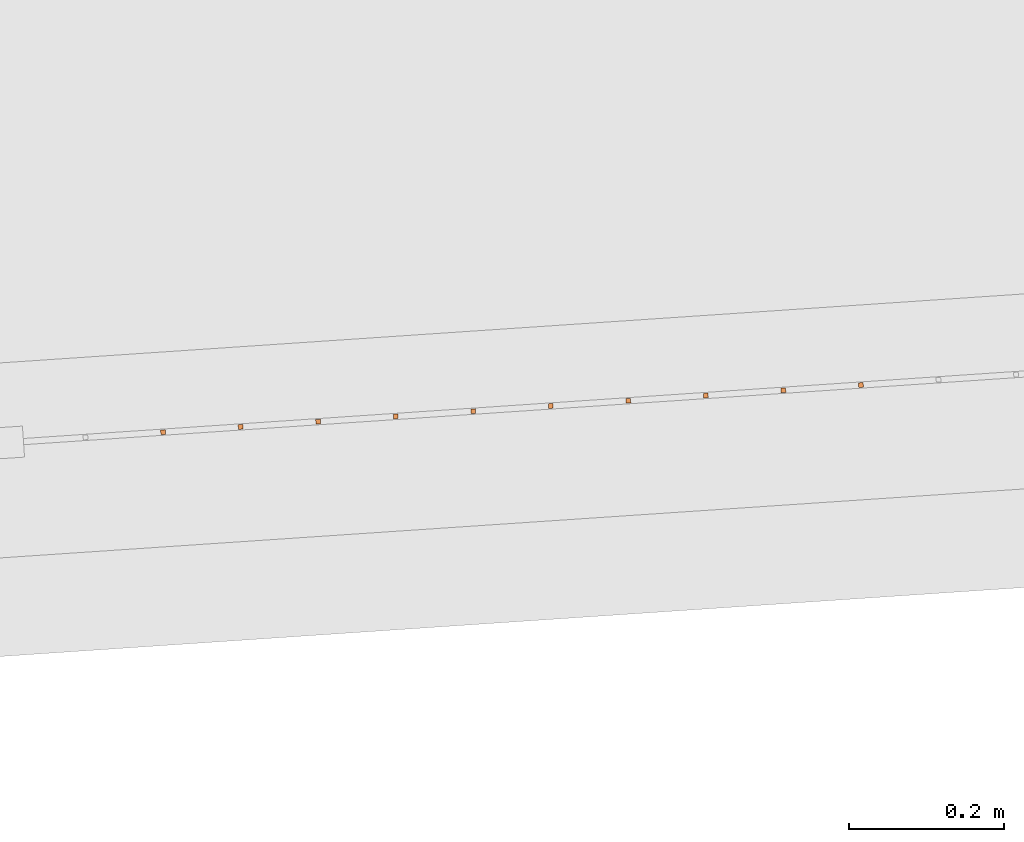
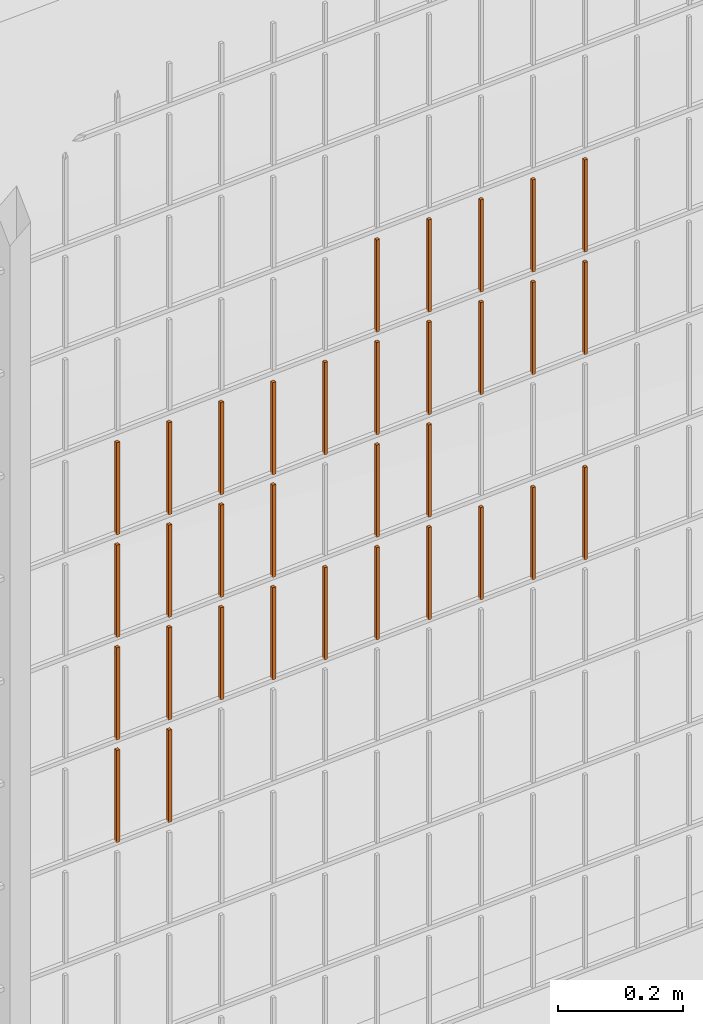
# One storey, part 381 of 1809: 33 proxies, 1 element without a shape of its own.
"""IFC2X3 building model written with IfcOpenShell, lengths in millimetres."""

from ifc_helpers import new_model, entity, si_unit, converted_unit, derived_unit, money_unit, direction, frame, origin_with_axes, place, context, subcontext, project, spatial, faceted_brep, source, transform, mapped, material, type_object, element, aggregate, save


model = new_model("IFC2X3")

# Units and contexts
model_context = context("Model", 3, precision=0.01, world=origin_with_axes(), true_north=direction((0.0, 1.0)))
body_context = subcontext(model_context, "Body", "Model", "MODEL_VIEW")
ifc_project = project(units=[si_unit("LENGTHUNIT", "METRE", prefix="MILLI"), si_unit("AREAUNIT", "SQUARE_METRE"), si_unit("VOLUMEUNIT", "CUBIC_METRE"), converted_unit("PLANEANGLEUNIT", "DEGREE", entity("IfcPlaneAngleMeasure", 0.0174532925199), si_unit("PLANEANGLEUNIT", "RADIAN"), dimensions=[0, 0, 0, 0, 0, 0, 0]), si_unit("SOLIDANGLEUNIT", "STERADIAN"), money_unit("EUR"), converted_unit("TIMEUNIT", "Year", entity("IfcTimeMeasure", 31556926.0), si_unit("TIMEUNIT", "SECOND"), dimensions=[0, 0, 1, 0, 0, 0, 0]), si_unit("MASSUNIT", "GRAM", prefix="KILO"), si_unit("THERMODYNAMICTEMPERATUREUNIT", "DEGREE_CELSIUS"), si_unit("LUMINOUSINTENSITYUNIT", "LUMEN"), si_unit("ENERGYUNIT", "JOULE", prefix="MEGA"), derived_unit("THERMALCONDUCTANCEUNIT", [(si_unit("POWERUNIT", "WATT"), 1), (si_unit("LENGTHUNIT", "METRE"), -1), (si_unit("THERMODYNAMICTEMPERATUREUNIT", "KELVIN"), -1)]), derived_unit("SPECIFICHEATCAPACITYUNIT", [(si_unit("ENERGYUNIT", "JOULE"), 1), (si_unit("MASSUNIT", "GRAM", prefix="KILO"), -1), (si_unit("THERMODYNAMICTEMPERATUREUNIT", "KELVIN"), -1)]), derived_unit("MASSDENSITYUNIT", [(si_unit("MASSUNIT", "GRAM", prefix="KILO"), 1), (si_unit("VOLUMEUNIT", "CUBIC_METRE"), -1)])], contexts=[model_context])

# Site, building, storey
site_placement = place(None, origin_with_axes())
site = spatial("IfcSite", under=ifc_project, at=site_placement, Name="Politse- ja Piirivalveameti ning Päästeameti ühishoone", CompositionType="ELEMENT")
building_placement = place(site_placement, origin_with_axes())
building = spatial("IfcBuilding", under=site, at=building_placement, Name="Politse- ja Piirivalveameti ning Päästeameti ühishoone", CompositionType="ELEMENT")
storey_placement = place(building_placement, origin_with_axes())
storey = spatial("IfcBuildingStorey", under=building, at=storey_placement, Name="Esimene korrus", CompositionType="ELEMENT", Elevation=0.0)

# Proxies
building_element_proxy_type_1 = type_object("IfcBuildingElementProxyType", Name="Railing Type", PredefinedType="NOTDEFINED")
proxy_1_placement = place(storey_placement, frame((89252.001212, -29183.4766571, 203.661247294), z_axis=(0.0, 0.0, 1.0), x_axis=(1.0, 0.0, 0.0)))
proxy_1 = element("IfcBuildingElementProxy", 1, at=proxy_1_placement, inside=storey, type_object=building_element_proxy_type_1, Name="PIIRDEAED")
ifc_material = material(Name="ET-03_Raud")
building_element_proxy_type_2 = type_object("IfcBuildingElementProxyType", Name="IfcBuildingElementProxy", PredefinedType="NOTDEFINED")
shared_shape_1 = source(origin_with_axes(), body_context, "Body", "Brep", [
    faceted_brep([(3.0, 3.0, -0.000752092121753), (-3.0, 3.0, -0.000752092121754), (-3.0, 3.0, 179.99926046), (3.0, 3.0, 179.99926046), (3.0, -3.0, 0.000752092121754), (-3.0, -3.0, 0.000752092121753), (-3.0, -3.0, 180.000764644), (3.0, -3.0, 180.000764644)], [[[0, 1, 2, 3]], [[0, 4, 5, 1]], [[1, 5, 6, 2]], [[3, 2, 6, 7]], [[4, 0, 3, 7]], [[5, 4, 7, 6]]]),
])
proxy_2_placement = place(proxy_1_placement, frame((-16588.8876971, -18418.2915213, 1423.0661185), z_axis=(0.0, 0.0, 1.0), x_axis=(1.0, 0.0, 0.0)))
proxy_2 = element("IfcBuildingElementProxy", 2, at=proxy_2_placement, type_object=building_element_proxy_type_2, material=ifc_material, Name="BALUSTER - 001", context=body_context, shape_type="MappedRepresentation", body=[
    mapped(shared_shape_1, transform((0.0, 0.0, 0.0), x_axis=(-0.0673926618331, 0.997726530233, 0.0), y_axis=(-0.997726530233, -0.0673926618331, 0.0), z_axis=(0.0, 0.0, 1.0))),
])
shared_shape_2 = source(origin_with_axes(), body_context, "Body", "Brep", [
    faceted_brep([(3.0, 3.0, -0.000752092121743), (-3.0, 3.0, -0.000752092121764), (-3.0, 3.0, 179.99926046), (3.0, 3.0, 179.99926046), (3.0, -3.0, 0.000752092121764), (-3.0, -3.0, 0.000752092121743), (-3.0, -3.0, 180.000764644), (3.0, -3.0, 180.000764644)], [[[0, 1, 2, 3]], [[0, 4, 5, 1]], [[1, 5, 6, 2]], [[3, 2, 6, 7]], [[4, 0, 3, 7]], [[5, 4, 7, 6]]]),
])
proxy_3_placement = place(proxy_1_placement, frame((-16289.569738, -18398.0737228, 1423.14132771), z_axis=(0.0, 0.0, 1.0), x_axis=(1.0, 0.0, 0.0)))
proxy_3 = element("IfcBuildingElementProxy", 3, at=proxy_3_placement, type_object=building_element_proxy_type_2, material=ifc_material, Name="BALUSTER - 001", context=body_context, shape_type="MappedRepresentation", body=[
    mapped(shared_shape_2, transform((0.0, 0.0, 0.0), x_axis=(-0.0673926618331, 0.997726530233, 0.0), y_axis=(-0.997726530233, -0.0673926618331, 0.0), z_axis=(0.0, 0.0, 1.0))),
])
shared_shape_3 = source(origin_with_axes(), body_context, "Body", "Brep", [
    faceted_brep([(3.0, 3.0, -0.000752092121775), (-3.0, 3.0, -0.000752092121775), (-3.0, 3.0, 179.99926046), (3.0, 3.0, 179.99926046), (3.0, -3.0, 0.000752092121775), (-3.0, -3.0, 0.000752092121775), (-3.0, -3.0, 180.000764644), (3.0, -3.0, 180.000764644)], [[[0, 1, 2, 3]], [[0, 4, 5, 1]], [[1, 5, 6, 2]], [[3, 2, 6, 7]], [[4, 0, 3, 7]], [[5, 4, 7, 6]]]),
])
proxy_4_placement = place(proxy_1_placement, frame((-17087.7509622, -18451.9878523, 622.940769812), z_axis=(0.0, 0.0, 1.0), x_axis=(1.0, 0.0, 0.0)))
proxy_4 = element("IfcBuildingElementProxy", 4, at=proxy_4_placement, type_object=building_element_proxy_type_2, material=ifc_material, Name="BALUSTER - 001", context=body_context, shape_type="MappedRepresentation", body=[
    mapped(shared_shape_3, transform((0.0, 0.0, 0.0), x_axis=(-0.0673926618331, 0.997726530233, 0.0), y_axis=(-0.997726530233, -0.0673926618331, 0.0), z_axis=(0.0, 0.0, 1.0))),
])
shared_shape_4 = source(origin_with_axes(), body_context, "Body", "Brep", [
    faceted_brep([(3.0, 3.0, -0.000752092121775), (-3.0, 3.0, -0.000752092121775), (-3.0, 3.0, 179.99926046), (3.0, 3.0, 179.99926046), (3.0, -3.0, 0.000752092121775), (-3.0, -3.0, 0.000752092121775), (-3.0, -3.0, 180.000764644), (3.0, -3.0, 180.000764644)], [[[0, 1, 2, 3]], [[0, 4, 5, 1]], [[1, 5, 6, 2]], [[3, 2, 6, 7]], [[4, 0, 3, 7]], [[5, 4, 7, 6]]]),
])
proxy_5_placement = place(proxy_1_placement, frame((-16389.342391, -18404.812989, 1223.11625797), z_axis=(0.0, 0.0, 1.0), x_axis=(1.0, 0.0, 0.0)))
proxy_5 = element("IfcBuildingElementProxy", 5, at=proxy_5_placement, type_object=building_element_proxy_type_2, material=ifc_material, Name="BALUSTER - 001", context=body_context, shape_type="MappedRepresentation", body=[
    mapped(shared_shape_4, transform((0.0, 0.0, 0.0), x_axis=(-0.0673926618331, 0.997726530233, 0.0), y_axis=(-0.997726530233, -0.0673926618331, 0.0), z_axis=(0.0, 0.0, 1.0))),
])
shared_shape_5 = source(origin_with_axes(), body_context, "Body", "Brep", [
    faceted_brep([(3.0, 3.0, -0.000752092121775), (-3.0, 3.0, -0.000752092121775), (-3.0, 3.0, 179.99926046), (3.0, 3.0, 179.99926046), (3.0, -3.0, 0.000752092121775), (-3.0, -3.0, 0.000752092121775), (-3.0, -3.0, 180.000764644), (3.0, -3.0, 180.000764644)], [[[0, 1, 2, 3]], [[0, 4, 5, 1]], [[1, 5, 6, 2]], [[3, 2, 6, 7]], [[4, 0, 3, 7]], [[5, 4, 7, 6]]]),
])
proxy_6_placement = place(proxy_1_placement, frame((-16588.8876971, -18418.2915213, 823.066118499), z_axis=(0.0, 0.0, 1.0), x_axis=(1.0, 0.0, 0.0)))
proxy_6 = element("IfcBuildingElementProxy", 6, at=proxy_6_placement, type_object=building_element_proxy_type_2, material=ifc_material, Name="BALUSTER - 001", context=body_context, shape_type="MappedRepresentation", body=[
    mapped(shared_shape_5, transform((0.0, 0.0, 0.0), x_axis=(-0.0673926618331, 0.997726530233, 0.0), y_axis=(-0.997726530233, -0.0673926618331, 0.0), z_axis=(0.0, 0.0, 1.0))),
])
shared_shape_6 = source(origin_with_axes(), body_context, "Body", "Brep", [
    faceted_brep([(3.0, 3.0, -0.000752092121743), (-3.0, 3.0, -0.000752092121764), (-3.0, 3.0, 179.99926046), (3.0, 3.0, 179.99926046), (3.0, -3.0, 0.000752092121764), (-3.0, -3.0, 0.000752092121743), (-3.0, -3.0, 180.000764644), (3.0, -3.0, 180.000764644)], [[[0, 1, 2, 3]], [[0, 4, 5, 1]], [[1, 5, 6, 2]], [[3, 2, 6, 7]], [[4, 0, 3, 7]], [[5, 4, 7, 6]]]),
])
proxy_7_placement = place(proxy_1_placement, frame((-16289.569738, -18398.0737228, 1223.14132771), z_axis=(0.0, 0.0, 1.0), x_axis=(1.0, 0.0, 0.0)))
proxy_7 = element("IfcBuildingElementProxy", 7, at=proxy_7_placement, type_object=building_element_proxy_type_2, material=ifc_material, Name="BALUSTER - 001", context=body_context, shape_type="MappedRepresentation", body=[
    mapped(shared_shape_6, transform((0.0, 0.0, 0.0), x_axis=(-0.0673926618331, 0.997726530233, 0.0), y_axis=(-0.997726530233, -0.0673926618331, 0.0), z_axis=(0.0, 0.0, 1.0))),
])
shared_shape_7 = source(origin_with_axes(), body_context, "Body", "Brep", [
    faceted_brep([(3.0, 3.0, -0.000752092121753), (-3.0, 3.0, -0.000752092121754), (-3.0, 3.0, 179.99926046), (3.0, 3.0, 179.99926046), (3.0, -3.0, 0.000752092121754), (-3.0, -3.0, 0.000752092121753), (-3.0, -3.0, 180.000764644), (3.0, -3.0, 180.000764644)], [[[0, 1, 2, 3]], [[0, 4, 5, 1]], [[1, 5, 6, 2]], [[3, 2, 6, 7]], [[4, 0, 3, 7]], [[5, 4, 7, 6]]]),
])
proxy_8_placement = place(proxy_1_placement, frame((-16289.569738, -18398.0737228, 823.141327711), z_axis=(0.0, 0.0, 1.0), x_axis=(1.0, 0.0, 0.0)))
proxy_8 = element("IfcBuildingElementProxy", 8, at=proxy_8_placement, type_object=building_element_proxy_type_2, material=ifc_material, Name="BALUSTER - 001", context=body_context, shape_type="MappedRepresentation", body=[
    mapped(shared_shape_7, transform((0.0, 0.0, 0.0), x_axis=(-0.0673926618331, 0.997726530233, 0.0), y_axis=(-0.997726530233, -0.0673926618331, 0.0), z_axis=(0.0, 0.0, 1.0))),
])
proxy_9_placement = place(proxy_1_placement, frame((-16588.8876971, -18418.2915213, 1223.0661185), z_axis=(0.0, 0.0, 1.0), x_axis=(1.0, 0.0, 0.0)))
proxy_9 = element("IfcBuildingElementProxy", 9, at=proxy_9_placement, type_object=building_element_proxy_type_2, material=ifc_material, Name="BALUSTER - 001", context=body_context, shape_type="MappedRepresentation", body=[
    mapped(shared_shape_7, transform((0.0, 0.0, 0.0), x_axis=(-0.0673926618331, 0.997726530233, 0.0), y_axis=(-0.997726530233, -0.0673926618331, 0.0), z_axis=(0.0, 0.0, 1.0))),
])
shared_shape_8 = source(origin_with_axes(), body_context, "Body", "Brep", [
    faceted_brep([(3.0, 3.0, -0.000752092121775), (-3.0, 3.0, -0.000752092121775), (-3.0, 3.0, 179.99926046), (3.0, 3.0, 179.99926046), (3.0, -3.0, 0.000752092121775), (-3.0, -3.0, 0.000752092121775), (-3.0, -3.0, 180.000764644), (3.0, -3.0, 180.000764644)], [[[0, 1, 2, 3]], [[0, 4, 5, 1]], [[1, 5, 6, 2]], [[3, 2, 6, 7]], [[4, 0, 3, 7]], [[5, 4, 7, 6]]]),
])
proxy_10_placement = place(proxy_1_placement, frame((-17087.7509622, -18451.9878523, 1222.94076981), z_axis=(0.0, 0.0, 1.0), x_axis=(1.0, 0.0, 0.0)))
proxy_10 = element("IfcBuildingElementProxy", 10, at=proxy_10_placement, type_object=building_element_proxy_type_2, material=ifc_material, Name="BALUSTER - 001", context=body_context, shape_type="MappedRepresentation", body=[
    mapped(shared_shape_8, transform((0.0, 0.0, 0.0), x_axis=(-0.0673926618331, 0.997726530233, 0.0), y_axis=(-0.997726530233, -0.0673926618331, 0.0), z_axis=(0.0, 0.0, 1.0))),
])
shared_shape_9 = source(origin_with_axes(), body_context, "Body", "Brep", [
    faceted_brep([(3.0, 3.0, -0.000752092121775), (-3.0, 3.0, -0.000752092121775), (-3.0, 3.0, 179.99926046), (3.0, 3.0, 179.99926046), (3.0, -3.0, 0.000752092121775), (-3.0, -3.0, 0.000752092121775), (-3.0, -3.0, 180.000764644), (3.0, -3.0, 180.000764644)], [[[0, 1, 2, 3]], [[0, 4, 5, 1]], [[1, 5, 6, 2]], [[3, 2, 6, 7]], [[4, 0, 3, 7]], [[5, 4, 7, 6]]]),
])
proxy_11_placement = place(proxy_1_placement, frame((-17087.7509622, -18451.9878523, 822.940769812), z_axis=(0.0, 0.0, 1.0), x_axis=(1.0, 0.0, 0.0)))
proxy_11 = element("IfcBuildingElementProxy", 11, at=proxy_11_placement, type_object=building_element_proxy_type_2, material=ifc_material, Name="BALUSTER - 001", context=body_context, shape_type="MappedRepresentation", body=[
    mapped(shared_shape_9, transform((0.0, 0.0, 0.0), x_axis=(-0.0673926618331, 0.997726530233, 0.0), y_axis=(-0.997726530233, -0.0673926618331, 0.0), z_axis=(0.0, 0.0, 1.0))),
])
shared_shape_10 = source(origin_with_axes(), body_context, "Body", "Brep", [
    faceted_brep([(3.0, 3.0, -0.000752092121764), (-3.0, 3.0, -0.000752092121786), (-3.0, 3.0, 179.99926046), (3.0, 3.0, 179.99926046), (3.0, -3.0, 0.000752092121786), (-3.0, -3.0, 0.000752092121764), (-3.0, -3.0, 180.000764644), (3.0, -3.0, 180.000764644)], [[[0, 1, 2, 3]], [[0, 4, 5, 1]], [[1, 5, 6, 2]], [[3, 2, 6, 7]], [[4, 0, 3, 7]], [[5, 4, 7, 6]]]),
])
proxy_12_placement = place(proxy_1_placement, frame((-16688.6603501, -18425.0307875, 1223.04104876), z_axis=(0.0, 0.0, 1.0), x_axis=(1.0, 0.0, 0.0)))
proxy_12 = element("IfcBuildingElementProxy", 12, at=proxy_12_placement, type_object=building_element_proxy_type_2, material=ifc_material, Name="BALUSTER - 001", context=body_context, shape_type="MappedRepresentation", body=[
    mapped(shared_shape_10, transform((0.0, 0.0, 0.0), x_axis=(-0.0673926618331, 0.997726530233, 0.0), y_axis=(-0.997726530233, -0.0673926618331, 0.0), z_axis=(0.0, 0.0, 1.0))),
])
shared_shape_11 = source(origin_with_axes(), body_context, "Body", "Brep", [
    faceted_brep([(3.0, 3.0, -0.000752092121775), (-3.0, 3.0, -0.000752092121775), (-3.0, 3.0, 179.99926046), (3.0, 3.0, 179.99926046), (3.0, -3.0, 0.000752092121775), (-3.0, -3.0, 0.000752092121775), (-3.0, -3.0, 180.000764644), (3.0, -3.0, 180.000764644)], [[[0, 1, 2, 3]], [[0, 4, 5, 1]], [[1, 5, 6, 2]], [[3, 2, 6, 7]], [[4, 0, 3, 7]], [[5, 4, 7, 6]]]),
])
proxy_13_placement = place(proxy_1_placement, frame((-16489.115044, -18411.5522552, 1223.09118824), z_axis=(0.0, 0.0, 1.0), x_axis=(1.0, 0.0, 0.0)))
proxy_13 = element("IfcBuildingElementProxy", 13, at=proxy_13_placement, type_object=building_element_proxy_type_2, material=ifc_material, Name="BALUSTER - 001", context=body_context, shape_type="MappedRepresentation", body=[
    mapped(shared_shape_11, transform((0.0, 0.0, 0.0), x_axis=(-0.0673926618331, 0.997726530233, 0.0), y_axis=(-0.997726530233, -0.0673926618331, 0.0), z_axis=(0.0, 0.0, 1.0))),
])
shared_shape_12 = source(origin_with_axes(), body_context, "Body", "Brep", [
    faceted_brep([(3.0, 3.0, -0.000752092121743), (-3.0, 3.0, -0.000752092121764), (-3.0, 3.0, 179.99926046), (3.0, 3.0, 179.99926046), (3.0, -3.0, 0.000752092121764), (-3.0, -3.0, 0.000752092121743), (-3.0, -3.0, 180.000764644), (3.0, -3.0, 180.000764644)], [[[0, 1, 2, 3]], [[0, 4, 5, 1]], [[1, 5, 6, 2]], [[3, 2, 6, 7]], [[4, 0, 3, 7]], [[5, 4, 7, 6]]]),
])
proxy_14_placement = place(proxy_1_placement, frame((-16888.2056561, -18438.5093199, 822.990909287), z_axis=(0.0, 0.0, 1.0), x_axis=(1.0, 0.0, 0.0)))
proxy_14 = element("IfcBuildingElementProxy", 14, at=proxy_14_placement, type_object=building_element_proxy_type_2, material=ifc_material, Name="BALUSTER - 001", context=body_context, shape_type="MappedRepresentation", body=[
    mapped(shared_shape_12, transform((0.0, 0.0, 0.0), x_axis=(-0.0673926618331, 0.997726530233, 0.0), y_axis=(-0.997726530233, -0.0673926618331, 0.0), z_axis=(0.0, 0.0, 1.0))),
])
proxy_15_placement = place(proxy_1_placement, frame((-16788.4330031, -18431.7700537, 1223.01597902), z_axis=(0.0, 0.0, 1.0), x_axis=(1.0, 0.0, 0.0)))
proxy_15 = element("IfcBuildingElementProxy", 15, at=proxy_15_placement, type_object=building_element_proxy_type_2, material=ifc_material, Name="BALUSTER - 001", context=body_context, shape_type="MappedRepresentation", body=[
    mapped(shared_shape_12, transform((0.0, 0.0, 0.0), x_axis=(-0.0673926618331, 0.997726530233, 0.0), y_axis=(-0.997726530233, -0.0673926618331, 0.0), z_axis=(0.0, 0.0, 1.0))),
])
shared_shape_13 = source(origin_with_axes(), body_context, "Body", "Brep", [
    faceted_brep([(3.0, 3.0, -0.000752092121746), (-3.0, 3.0, -0.000752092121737), (-3.00000000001, 2.99999999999, 179.99926046), (2.99999999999, 2.99999999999, 179.99926046), (3.0, -3.0, 0.000752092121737), (-3.0, -3.0, 0.000752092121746), (-3.00000000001, -3.00000000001, 180.000764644), (2.99999999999, -3.00000000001, 180.000764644)], [[[0, 1, 2, 3]], [[0, 4, 5, 1]], [[1, 5, 6, 2]], [[3, 2, 6, 7]], [[4, 0, 3, 7]], [[5, 4, 7, 6]]]),
])
proxy_16_placement = place(proxy_1_placement, frame((-16888.2056561, -18438.5093199, 1022.99090929), z_axis=(0.0, 0.0, 1.0), x_axis=(1.0, 0.0, 0.0)))
proxy_16 = element("IfcBuildingElementProxy", 16, at=proxy_16_placement, type_object=building_element_proxy_type_2, material=ifc_material, Name="BALUSTER - 001", context=body_context, shape_type="MappedRepresentation", body=[
    mapped(shared_shape_13, transform((0.0, 0.0, 0.0), x_axis=(-0.0673926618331, 0.997726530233, 0.0), y_axis=(-0.997726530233, -0.0673926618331, 0.0), z_axis=(0.0, 0.0, 1.0))),
])
shared_shape_14 = source(origin_with_axes(), body_context, "Body", "Brep", [
    faceted_brep([(3.0, 3.0, -0.000752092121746), (-3.0, 3.0, -0.000752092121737), (-3.00000000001, 2.99999999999, 179.99926046), (2.99999999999, 2.99999999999, 179.99926046), (3.0, -3.0, 0.000752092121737), (-3.0, -3.0, 0.000752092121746), (-3.00000000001, -3.00000000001, 180.000764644), (2.99999999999, -3.00000000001, 180.000764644)], [[[0, 1, 2, 3]], [[0, 4, 5, 1]], [[1, 5, 6, 2]], [[3, 2, 6, 7]], [[4, 0, 3, 7]], [[5, 4, 7, 6]]]),
])
proxy_17_placement = place(proxy_1_placement, frame((-16588.8876971, -18418.2915213, 1023.0661185), z_axis=(0.0, 0.0, 1.0), x_axis=(1.0, 0.0, 0.0)))
proxy_17 = element("IfcBuildingElementProxy", 17, at=proxy_17_placement, type_object=building_element_proxy_type_2, material=ifc_material, Name="BALUSTER - 001", context=body_context, shape_type="MappedRepresentation", body=[
    mapped(shared_shape_14, transform((0.0, 0.0, 0.0), x_axis=(-0.0673926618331, 0.997726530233, 0.0), y_axis=(-0.997726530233, -0.0673926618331, 0.0), z_axis=(0.0, 0.0, 1.0))),
])
shared_shape_15 = source(origin_with_axes(), body_context, "Body", "Brep", [
    faceted_brep([(3.0, 3.0, -0.000752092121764), (-3.0, 3.0, -0.000752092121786), (-3.0, 3.0, 179.99926046), (3.0, 3.0, 179.99926046), (3.0, -3.0, 0.000752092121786), (-3.0, -3.0, 0.000752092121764), (-3.0, -3.0, 180.000764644), (3.0, -3.0, 180.000764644)], [[[0, 1, 2, 3]], [[0, 4, 5, 1]], [[1, 5, 6, 2]], [[3, 2, 6, 7]], [[4, 0, 3, 7]], [[5, 4, 7, 6]]]),
])
proxy_18_placement = place(proxy_1_placement, frame((-16189.797085, -18391.3344566, 1223.16639745), z_axis=(0.0, 0.0, 1.0), x_axis=(1.0, 0.0, 0.0)))
proxy_18 = element("IfcBuildingElementProxy", 18, at=proxy_18_placement, type_object=building_element_proxy_type_2, material=ifc_material, Name="BALUSTER - 001", context=body_context, shape_type="MappedRepresentation", body=[
    mapped(shared_shape_15, transform((0.0, 0.0, 0.0), x_axis=(-0.0673926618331, 0.997726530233, 0.0), y_axis=(-0.997726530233, -0.0673926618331, 0.0), z_axis=(0.0, 0.0, 1.0))),
])
shared_shape_16 = source(origin_with_axes(), body_context, "Body", "Brep", [
    faceted_brep([(3.0, 3.0, -0.000752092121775), (-3.0, 3.0, -0.000752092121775), (-3.0, 3.0, 179.99926046), (3.0, 3.0, 179.99926046), (3.0, -3.0, 0.000752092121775), (-3.0, -3.0, 0.000752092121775), (-3.0, -3.0, 180.000764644), (3.0, -3.0, 180.000764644)], [[[0, 1, 2, 3]], [[0, 4, 5, 1]], [[1, 5, 6, 2]], [[3, 2, 6, 7]], [[4, 0, 3, 7]], [[5, 4, 7, 6]]]),
])
proxy_19_placement = place(proxy_1_placement, frame((-16489.115044, -18411.5522552, 823.091188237), z_axis=(0.0, 0.0, 1.0), x_axis=(1.0, 0.0, 0.0)))
proxy_19 = element("IfcBuildingElementProxy", 19, at=proxy_19_placement, type_object=building_element_proxy_type_2, material=ifc_material, Name="BALUSTER - 001", context=body_context, shape_type="MappedRepresentation", body=[
    mapped(shared_shape_16, transform((0.0, 0.0, 0.0), x_axis=(-0.0673926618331, 0.997726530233, 0.0), y_axis=(-0.997726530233, -0.0673926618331, 0.0), z_axis=(0.0, 0.0, 1.0))),
])
shared_shape_17 = source(origin_with_axes(), body_context, "Body", "Brep", [
    faceted_brep([(3.0, 3.0, -0.000752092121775), (-3.0, 3.0, -0.000752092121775), (-3.0, 3.0, 179.99926046), (3.0, 3.0, 179.99926046), (3.0, -3.0, 0.000752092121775), (-3.0, -3.0, 0.000752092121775), (-3.0, -3.0, 180.000764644), (3.0, -3.0, 180.000764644)], [[[0, 1, 2, 3]], [[0, 4, 5, 1]], [[1, 5, 6, 2]], [[3, 2, 6, 7]], [[4, 0, 3, 7]], [[5, 4, 7, 6]]]),
])
proxy_20_placement = place(proxy_1_placement, frame((-16389.342391, -18404.812989, 823.116257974), z_axis=(0.0, 0.0, 1.0), x_axis=(1.0, 0.0, 0.0)))
proxy_20 = element("IfcBuildingElementProxy", 20, at=proxy_20_placement, type_object=building_element_proxy_type_2, material=ifc_material, Name="BALUSTER - 001", context=body_context, shape_type="MappedRepresentation", body=[
    mapped(shared_shape_17, transform((0.0, 0.0, 0.0), x_axis=(-0.0673926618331, 0.997726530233, 0.0), y_axis=(-0.997726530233, -0.0673926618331, 0.0), z_axis=(0.0, 0.0, 1.0))),
])
shared_shape_18 = source(origin_with_axes(), body_context, "Body", "Brep", [
    faceted_brep([(3.0, 3.0, -0.000752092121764), (-3.0, 3.0, -0.000752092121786), (-3.0, 3.0, 179.99926046), (3.0, 3.0, 179.99926046), (3.0, -3.0, 0.000752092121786), (-3.0, -3.0, 0.000752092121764), (-3.0, -3.0, 180.000764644), (3.0, -3.0, 180.000764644)], [[[0, 1, 2, 3]], [[0, 4, 5, 1]], [[1, 5, 6, 2]], [[3, 2, 6, 7]], [[4, 0, 3, 7]], [[5, 4, 7, 6]]]),
])
proxy_21_placement = place(proxy_1_placement, frame((-16189.797085, -18391.3344566, 1423.16639745), z_axis=(0.0, 0.0, 1.0), x_axis=(1.0, 0.0, 0.0)))
proxy_21 = element("IfcBuildingElementProxy", 21, at=proxy_21_placement, type_object=building_element_proxy_type_2, material=ifc_material, Name="BALUSTER - 001", context=body_context, shape_type="MappedRepresentation", body=[
    mapped(shared_shape_18, transform((0.0, 0.0, 0.0), x_axis=(-0.0673926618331, 0.997726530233, 0.0), y_axis=(-0.997726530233, -0.0673926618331, 0.0), z_axis=(0.0, 0.0, 1.0))),
])
shared_shape_19 = source(origin_with_axes(), body_context, "Body", "Brep", [
    faceted_brep([(3.0, 3.0, -0.000752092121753), (-3.0, 3.0, -0.000752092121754), (-3.0, 3.0, 179.99926046), (3.0, 3.0, 179.99926046), (3.0, -3.0, 0.000752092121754), (-3.0, -3.0, 0.000752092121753), (-3.0, -3.0, 180.000764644), (3.0, -3.0, 180.000764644)], [[[0, 1, 2, 3]], [[0, 4, 5, 1]], [[1, 5, 6, 2]], [[3, 2, 6, 7]], [[4, 0, 3, 7]], [[5, 4, 7, 6]]]),
])
proxy_22_placement = place(proxy_1_placement, frame((-16987.9783091, -18445.2485861, 622.96583955), z_axis=(0.0, 0.0, 1.0), x_axis=(1.0, 0.0, 0.0)))
proxy_22 = element("IfcBuildingElementProxy", 22, at=proxy_22_placement, type_object=building_element_proxy_type_2, material=ifc_material, Name="BALUSTER - 001", context=body_context, shape_type="MappedRepresentation", body=[
    mapped(shared_shape_19, transform((0.0, 0.0, 0.0), x_axis=(-0.0673926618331, 0.997726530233, 0.0), y_axis=(-0.997726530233, -0.0673926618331, 0.0), z_axis=(0.0, 0.0, 1.0))),
])
shared_shape_20 = source(origin_with_axes(), body_context, "Body", "Brep", [
    faceted_brep([(3.0, 3.0, -0.000752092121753), (-3.0, 3.0, -0.000752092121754), (-3.0, 3.0, 179.99926046), (3.0, 3.0, 179.99926046), (3.0, -3.0, 0.000752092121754), (-3.0, -3.0, 0.000752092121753), (-3.0, -3.0, 180.000764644), (3.0, -3.0, 180.000764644)], [[[0, 1, 2, 3]], [[0, 4, 5, 1]], [[1, 5, 6, 2]], [[3, 2, 6, 7]], [[4, 0, 3, 7]], [[5, 4, 7, 6]]]),
])
proxy_23_placement = place(proxy_1_placement, frame((-16688.6603501, -18425.0307875, 823.041048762), z_axis=(0.0, 0.0, 1.0), x_axis=(1.0, 0.0, 0.0)))
proxy_23 = element("IfcBuildingElementProxy", 23, at=proxy_23_placement, type_object=building_element_proxy_type_2, material=ifc_material, Name="BALUSTER - 001", context=body_context, shape_type="MappedRepresentation", body=[
    mapped(shared_shape_20, transform((0.0, 0.0, 0.0), x_axis=(-0.0673926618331, 0.997726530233, 0.0), y_axis=(-0.997726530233, -0.0673926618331, 0.0), z_axis=(0.0, 0.0, 1.0))),
])
proxy_24_placement = place(proxy_1_placement, frame((-16987.9783091, -18445.2485861, 822.96583955), z_axis=(0.0, 0.0, 1.0), x_axis=(1.0, 0.0, 0.0)))
proxy_24 = element("IfcBuildingElementProxy", 24, at=proxy_24_placement, type_object=building_element_proxy_type_2, material=ifc_material, Name="BALUSTER - 001", context=body_context, shape_type="MappedRepresentation", body=[
    mapped(shared_shape_20, transform((0.0, 0.0, 0.0), x_axis=(-0.0673926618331, 0.997726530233, 0.0), y_axis=(-0.997726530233, -0.0673926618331, 0.0), z_axis=(0.0, 0.0, 1.0))),
])
proxy_25_placement = place(proxy_1_placement, frame((-16987.9783091, -18445.2485861, 1222.96583955), z_axis=(0.0, 0.0, 1.0), x_axis=(1.0, 0.0, 0.0)))
proxy_25 = element("IfcBuildingElementProxy", 25, at=proxy_25_placement, type_object=building_element_proxy_type_2, material=ifc_material, Name="BALUSTER - 001", context=body_context, shape_type="MappedRepresentation", body=[
    mapped(shared_shape_20, transform((0.0, 0.0, 0.0), x_axis=(-0.0673926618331, 0.997726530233, 0.0), y_axis=(-0.997726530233, -0.0673926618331, 0.0), z_axis=(0.0, 0.0, 1.0))),
])
shared_shape_21 = source(origin_with_axes(), body_context, "Body", "Brep", [
    faceted_brep([(3.0, 3.0, -0.000752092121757), (-3.0, 3.0, -0.000752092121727), (-3.00000000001, 2.99999999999, 179.99926046), (2.99999999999, 2.99999999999, 179.99926046), (3.0, -3.0, 0.000752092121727), (-3.0, -3.0, 0.000752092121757), (-3.00000000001, -3.00000000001, 180.000764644), (2.99999999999, -3.00000000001, 180.000764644)], [[[0, 1, 2, 3]], [[0, 4, 5, 1]], [[1, 5, 6, 2]], [[3, 2, 6, 7]], [[4, 0, 3, 7]], [[5, 4, 7, 6]]]),
])
proxy_26_placement = place(proxy_1_placement, frame((-16987.9783091, -18445.2485861, 1022.96583955), z_axis=(0.0, 0.0, 1.0), x_axis=(1.0, 0.0, 0.0)))
proxy_26 = element("IfcBuildingElementProxy", 26, at=proxy_26_placement, type_object=building_element_proxy_type_2, material=ifc_material, Name="BALUSTER - 001", context=body_context, shape_type="MappedRepresentation", body=[
    mapped(shared_shape_21, transform((0.0, 0.0, 0.0), x_axis=(-0.0673926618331, 0.997726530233, 0.0), y_axis=(-0.997726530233, -0.0673926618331, 0.0), z_axis=(0.0, 0.0, 1.0))),
])
shared_shape_22 = source(origin_with_axes(), body_context, "Body", "Brep", [
    faceted_brep([(3.0, 3.0, -0.000752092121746), (-3.0, 3.0, -0.000752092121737), (-3.00000000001, 2.99999999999, 179.99926046), (2.99999999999, 2.99999999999, 179.99926046), (3.0, -3.0, 0.000752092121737), (-3.0, -3.0, 0.000752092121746), (-3.00000000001, -3.00000000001, 180.000764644), (2.99999999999, -3.00000000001, 180.000764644)], [[[0, 1, 2, 3]], [[0, 4, 5, 1]], [[1, 5, 6, 2]], [[3, 2, 6, 7]], [[4, 0, 3, 7]], [[5, 4, 7, 6]]]),
])
proxy_27_placement = place(proxy_1_placement, frame((-16489.115044, -18411.5522552, 1023.09118824), z_axis=(0.0, 0.0, 1.0), x_axis=(1.0, 0.0, 0.0)))
proxy_27 = element("IfcBuildingElementProxy", 27, at=proxy_27_placement, type_object=building_element_proxy_type_2, material=ifc_material, Name="BALUSTER - 001", context=body_context, shape_type="MappedRepresentation", body=[
    mapped(shared_shape_22, transform((0.0, 0.0, 0.0), x_axis=(-0.0673926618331, 0.997726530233, 0.0), y_axis=(-0.997726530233, -0.0673926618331, 0.0), z_axis=(0.0, 0.0, 1.0))),
])
shared_shape_23 = source(origin_with_axes(), body_context, "Body", "Brep", [
    faceted_brep([(3.0, 3.0, -0.000752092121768), (-3.0, 3.0, -0.000752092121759), (-3.00000000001, 2.99999999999, 179.99926046), (2.99999999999, 2.99999999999, 179.99926046), (3.0, -3.0, 0.000752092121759), (-3.0, -3.0, 0.000752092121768), (-3.00000000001, -3.00000000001, 180.000764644), (2.99999999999, -3.00000000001, 180.000764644)], [[[0, 1, 2, 3]], [[0, 4, 5, 1]], [[1, 5, 6, 2]], [[3, 2, 6, 7]], [[4, 0, 3, 7]], [[5, 4, 7, 6]]]),
])
proxy_28_placement = place(proxy_1_placement, frame((-17087.7509622, -18451.9878523, 1022.94076981), z_axis=(0.0, 0.0, 1.0), x_axis=(1.0, 0.0, 0.0)))
proxy_28 = element("IfcBuildingElementProxy", 28, at=proxy_28_placement, type_object=building_element_proxy_type_2, material=ifc_material, Name="BALUSTER - 001", context=body_context, shape_type="MappedRepresentation", body=[
    mapped(shared_shape_23, transform((0.0, 0.0, 0.0), x_axis=(-0.0673926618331, 0.997726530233, 0.0), y_axis=(-0.997726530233, -0.0673926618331, 0.0), z_axis=(0.0, 0.0, 1.0))),
])
shared_shape_24 = source(origin_with_axes(), body_context, "Body", "Brep", [
    faceted_brep([(3.0, 3.0, -0.000752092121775), (-3.0, 3.0, -0.000752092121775), (-3.0, 3.0, 179.99926046), (3.0, 3.0, 179.99926046), (3.0, -3.0, 0.000752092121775), (-3.0, -3.0, 0.000752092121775), (-3.0, -3.0, 180.000764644), (3.0, -3.0, 180.000764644)], [[[0, 1, 2, 3]], [[0, 4, 5, 1]], [[1, 5, 6, 2]], [[3, 2, 6, 7]], [[4, 0, 3, 7]], [[5, 4, 7, 6]]]),
])
proxy_29_placement = place(proxy_1_placement, frame((-16489.115044, -18411.5522552, 1423.09118824), z_axis=(0.0, 0.0, 1.0), x_axis=(1.0, 0.0, 0.0)))
proxy_29 = element("IfcBuildingElementProxy", 29, at=proxy_29_placement, type_object=building_element_proxy_type_2, material=ifc_material, Name="BALUSTER - 001", context=body_context, shape_type="MappedRepresentation", body=[
    mapped(shared_shape_24, transform((0.0, 0.0, 0.0), x_axis=(-0.0673926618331, 0.997726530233, 0.0), y_axis=(-0.997726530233, -0.0673926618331, 0.0), z_axis=(0.0, 0.0, 1.0))),
])
shared_shape_25 = source(origin_with_axes(), body_context, "Body", "Brep", [
    faceted_brep([(3.0, 3.0, -0.000752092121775), (-3.0, 3.0, -0.000752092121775), (-3.0, 3.0, 179.99926046), (3.0, 3.0, 179.99926046), (3.0, -3.0, 0.000752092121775), (-3.0, -3.0, 0.000752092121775), (-3.0, -3.0, 180.000764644), (3.0, -3.0, 180.000764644)], [[[0, 1, 2, 3]], [[0, 4, 5, 1]], [[1, 5, 6, 2]], [[3, 2, 6, 7]], [[4, 0, 3, 7]], [[5, 4, 7, 6]]]),
])
proxy_30_placement = place(proxy_1_placement, frame((-16389.342391, -18404.812989, 1423.11625797), z_axis=(0.0, 0.0, 1.0), x_axis=(1.0, 0.0, 0.0)))
proxy_30 = element("IfcBuildingElementProxy", 30, at=proxy_30_placement, type_object=building_element_proxy_type_2, material=ifc_material, Name="BALUSTER - 001", context=body_context, shape_type="MappedRepresentation", body=[
    mapped(shared_shape_25, transform((0.0, 0.0, 0.0), x_axis=(-0.0673926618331, 0.997726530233, 0.0), y_axis=(-0.997726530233, -0.0673926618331, 0.0), z_axis=(0.0, 0.0, 1.0))),
])
shared_shape_26 = source(origin_with_axes(), body_context, "Body", "Brep", [
    faceted_brep([(3.0, 3.0, -0.000752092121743), (-3.0, 3.0, -0.000752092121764), (-3.0, 3.0, 179.99926046), (3.0, 3.0, 179.99926046), (3.0, -3.0, 0.000752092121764), (-3.0, -3.0, 0.000752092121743), (-3.0, -3.0, 180.000764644), (3.0, -3.0, 180.000764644)], [[[0, 1, 2, 3]], [[0, 4, 5, 1]], [[1, 5, 6, 2]], [[3, 2, 6, 7]], [[4, 0, 3, 7]], [[5, 4, 7, 6]]]),
])
proxy_31_placement = place(proxy_1_placement, frame((-16189.797085, -18391.3344566, 823.166397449), z_axis=(0.0, 0.0, 1.0), x_axis=(1.0, 0.0, 0.0)))
proxy_31 = element("IfcBuildingElementProxy", 31, at=proxy_31_placement, type_object=building_element_proxy_type_2, material=ifc_material, Name="BALUSTER - 001", context=body_context, shape_type="MappedRepresentation", body=[
    mapped(shared_shape_26, transform((0.0, 0.0, 0.0), x_axis=(-0.0673926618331, 0.997726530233, 0.0), y_axis=(-0.997726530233, -0.0673926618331, 0.0), z_axis=(0.0, 0.0, 1.0))),
])
proxy_32_placement = place(proxy_1_placement, frame((-16788.4330031, -18431.7700537, 823.015979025), z_axis=(0.0, 0.0, 1.0), x_axis=(1.0, 0.0, 0.0)))
proxy_32 = element("IfcBuildingElementProxy", 32, at=proxy_32_placement, type_object=building_element_proxy_type_2, material=ifc_material, Name="BALUSTER - 001", context=body_context, shape_type="MappedRepresentation", body=[
    mapped(shared_shape_26, transform((0.0, 0.0, 0.0), x_axis=(-0.0673926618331, 0.997726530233, 0.0), y_axis=(-0.997726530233, -0.0673926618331, 0.0), z_axis=(0.0, 0.0, 1.0))),
])
proxy_33_placement = place(proxy_1_placement, frame((-16888.2056561, -18438.5093199, 1222.99090929), z_axis=(0.0, 0.0, 1.0), x_axis=(1.0, 0.0, 0.0)))
proxy_33 = element("IfcBuildingElementProxy", 33, at=proxy_33_placement, type_object=building_element_proxy_type_2, material=ifc_material, Name="BALUSTER - 001", context=body_context, shape_type="MappedRepresentation", body=[
    mapped(shared_shape_26, transform((0.0, 0.0, 0.0), x_axis=(-0.0673926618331, 0.997726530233, 0.0), y_axis=(-0.997726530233, -0.0673926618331, 0.0), z_axis=(0.0, 0.0, 1.0))),
])
shared_shape_27 = source(origin_with_axes(), body_context, "Body", "Brep", [
    faceted_brep([(3.0, 3.0, -0.000752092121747), (-3.0, 3.0, -0.00075209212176), (-3.00000000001, 3.0, 179.99926046), (2.99999999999, 3.0, 179.99926046), (3.0, -3.0, 0.00075209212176), (-3.0, -3.0, 0.000752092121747), (-3.00000000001, -3.0, 180.000764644), (2.99999999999, -3.0, 180.000764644)], [[[0, 1, 2, 3]], [[0, 4, 5, 1]], [[1, 5, 6, 2]], [[3, 2, 6, 7]], [[4, 0, 3, 7]], [[5, 4, 7, 6]]]),
])
proxy_34_placement = place(proxy_1_placement, frame((-16788.4330031, -18431.7700537, 1023.01597902), z_axis=(0.0, 0.0, 1.0), x_axis=(1.0, 0.0, 0.0)))
proxy_34 = element("IfcBuildingElementProxy", 34, at=proxy_34_placement, type_object=building_element_proxy_type_2, material=ifc_material, Name="BALUSTER - 001", context=body_context, shape_type="MappedRepresentation", body=[
    mapped(shared_shape_27, transform((0.0, 0.0, 0.0), x_axis=(-0.0673926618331, 0.997726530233, 0.0), y_axis=(-0.997726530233, -0.0673926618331, 0.0), z_axis=(0.0, 0.0, 1.0))),
])
aggregate(proxy_1, [proxy_22, proxy_4, proxy_31, proxy_8, proxy_20, proxy_19, proxy_6, proxy_23, proxy_32, proxy_14, proxy_24, proxy_11, proxy_27, proxy_17, proxy_34, proxy_16, proxy_26, proxy_28, proxy_18, proxy_7, proxy_5, proxy_13, proxy_9, proxy_12, proxy_15, proxy_33, proxy_25, proxy_10, proxy_21, proxy_3, proxy_30, proxy_29, proxy_2])

save(model, "model.ifc")
